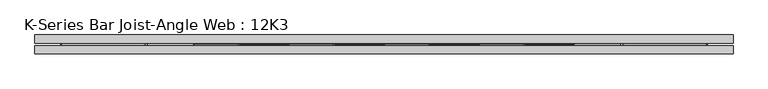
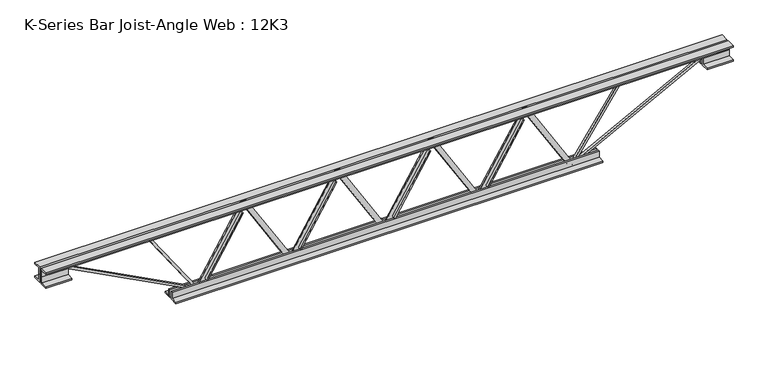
"""IFC4 building model written with IfcOpenShell, lengths in millimetres: beam geometry, K-Series Bar Joist-Angle Web : 12K3."""

from ifc_helpers import new_model, si_unit, frame, origin, place, context, project, spatial, polyline, outline, extrude, faceted_brep, source, transform, mapped, element, save


def k_series_bar_joist_angle_web_12k3_99e26d15(model_context):
    return source(origin(), model_context, "Body", "SolidModel", [
        extrude(outline(polyline([(-4.7625, 4.7625), (-4.7625, 0.0), (-17.4625, 0.0), (-17.4625, 4.7625), (-4.7625, 4.7625)])), frame((332.5611395, 0.0, -114.3), z_axis=(-0.5199277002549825, 0.0, 0.8542102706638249), x_axis=(0.0, -1.0, 0.0)), (0.0, 0.0, 1.0), 267.6156069),
        extrude(outline(polyline([(-149.225, 365.521875), (-130.175, 365.521875), (-130.175, 364.5249933), (149.225, 194.4640558), (149.225, 176.4109375), (130.175, 176.4109375), (130.175, 183.7578192), (-149.225, 353.8187567), (-149.225, 365.521875)])), frame((0.0, 0.0, 0.0), z_axis=(0.0, 1.0, 0.0), x_axis=(0.0, 0.0, 1.0)), (0.0, 0.0, 1.0), 4.7625),
        faceted_brep([(0.0, 0.0, -130.175), (0.0, 0.0, -149.225), (0.0, -4.7625, -149.225), (0.0, -4.7625, -130.175), (0.9968817, 0.0, -130.175), (171.0578192, 0.0, 149.225), (189.1109375, 0.0, 149.225), (189.1109375, 0.0, 130.175), (181.7640558, 0.0, 130.175), (11.7031183, 0.0, -149.225), (11.7031183, -4.7625, -149.225), (32.9607355, -4.7625, -114.3), (28.8925591, -4.7625, -111.8238443), (168.0333261, -4.7625, 116.7761557), (172.1015026, -4.7625, 114.3), (181.7640558, -4.7625, 130.175), (189.1109375, -4.7625, 130.175), (189.1109375, -4.7625, 149.225), (171.0578192, -4.7625, 149.225), (0.9968817, -4.7625, -130.175), (172.1015026, -17.4625, 114.3), (32.9607355, -17.4625, -114.3), (28.8925591, -17.4625, -111.8238443), (168.0333261, -17.4625, 116.7761557)], [[[0, 1, 2, 3]], [[1, 0, 4, 5, 6, 7, 8, 9]], [[2, 1, 9, 10]], [[3, 2, 10, 11, 12, 13, 14, 15, 16, 17, 18, 19]], [[0, 3, 19, 4]], [[9, 8, 15, 14, 20, 21, 11, 10]], [[5, 4, 19, 18]], [[7, 6, 17, 16]], [[8, 7, 16, 15]], [[6, 5, 18, 17]], [[21, 22, 12, 11]], [[20, 14, 13, 23]], [[22, 21, 20, 23]], [[12, 22, 23, 13]]]),
        extrude(outline(polyline([(-4.7625, 4.7625), (-4.7625, 0.0), (-17.4625, 0.0), (-17.4625, 4.7625), (-4.7625, 4.7625)])), frame((-32.9607355, 0.0, -114.3), z_axis=(-0.5199277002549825, 0.0, 0.8542102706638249), x_axis=(0.0, -1.0, 0.0)), (0.0, 0.0, 1.0), 267.6156069),
        extrude(outline(polyline([(-149.225, 0.0), (-130.175, 0.0), (-130.175, -0.9968817), (149.225, -171.0578192), (149.225, -189.1109375), (130.175, -189.1109375), (130.175, -181.7640558), (-149.225, -11.7031183), (-149.225, 0.0)])), frame((0.0, 0.0, 0.0), z_axis=(0.0, 1.0, 0.0), x_axis=(0.0, 0.0, 1.0)), (0.0, 0.0, 1.0), 4.7625),
        faceted_brep([(-365.521875, 0.0, -130.175), (-365.521875, 0.0, -149.225), (-365.521875, -4.7625, -149.225), (-365.521875, -4.7625, -130.175), (-364.5249933, 0.0, -130.175), (-194.4640558, 0.0, 149.225), (-176.4109375, 0.0, 149.225), (-176.4109375, 0.0, 130.175), (-183.7578192, 0.0, 130.175), (-353.8187567, 0.0, -149.225), (-353.8187567, -4.7625, -149.225), (-332.5611395, -4.7625, -114.3), (-336.6293159, -4.7625, -111.8238443), (-197.4885489, -4.7625, 116.7761557), (-193.4203724, -4.7625, 114.3), (-183.7578192, -4.7625, 130.175), (-176.4109375, -4.7625, 130.175), (-176.4109375, -4.7625, 149.225), (-194.4640558, -4.7625, 149.225), (-364.5249933, -4.7625, -130.175), (-193.4203724, -17.4625, 114.3), (-332.5611395, -17.4625, -114.3), (-336.6293159, -17.4625, -111.8238443), (-197.4885489, -17.4625, 116.7761557)], [[[0, 1, 2, 3]], [[1, 0, 4, 5, 6, 7, 8, 9]], [[2, 1, 9, 10]], [[3, 2, 10, 11, 12, 13, 14, 15, 16, 17, 18, 19]], [[0, 3, 19, 4]], [[9, 8, 15, 14, 20, 21, 11, 10]], [[5, 4, 19, 18]], [[7, 6, 17, 16]], [[8, 7, 16, 15]], [[6, 5, 18, 17]], [[21, 22, 12, 11]], [[20, 14, 13, 23]], [[22, 21, 20, 23]], [[12, 22, 23, 13]]]),
        extrude(outline(polyline([(-4.7625, 4.7625), (-4.7625, 0.0), (-17.4625, 0.0), (-17.4625, 4.7625), (-4.7625, 4.7625)])), frame((698.0830145, 0.0, -114.3), z_axis=(-0.5199277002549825, 0.0, 0.8542102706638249), x_axis=(0.0, -1.0, 0.0)), (0.0, 0.0, 1.0), 267.6156069),
        extrude(outline(polyline([(-149.225, 731.04375), (-130.175, 731.04375), (-130.175, 730.0468683), (149.225, 559.9859308), (149.225, 541.9328125), (130.175, 541.9328125), (130.175, 549.2796942), (-149.225, 719.3406317), (-149.225, 731.04375)])), frame((0.0, 0.0, 0.0), z_axis=(0.0, 1.0, 0.0), x_axis=(0.0, 0.0, 1.0)), (0.0, 0.0, 1.0), 4.7625),
        faceted_brep([(365.521875, 0.0, -130.175), (365.521875, 0.0, -149.225), (365.521875, -4.7625, -149.225), (365.521875, -4.7625, -130.175), (366.5187567, 0.0, -130.175), (536.5796942, 0.0, 149.225), (554.6328125, 0.0, 149.225), (554.6328125, 0.0, 130.175), (547.2859308, 0.0, 130.175), (377.2249933, 0.0, -149.225), (377.2249933, -4.7625, -149.225), (398.4826105, -4.7625, -114.3), (394.4144341, -4.7625, -111.8238443), (533.5552011, -4.7625, 116.7761557), (537.6233776, -4.7625, 114.3), (547.2859308, -4.7625, 130.175), (554.6328125, -4.7625, 130.175), (554.6328125, -4.7625, 149.225), (536.5796942, -4.7625, 149.225), (366.5187567, -4.7625, -130.175), (537.6233776, -17.4625, 114.3), (398.4826105, -17.4625, -114.3), (394.4144341, -17.4625, -111.8238443), (533.5552011, -17.4625, 116.7761557)], [[[0, 1, 2, 3]], [[1, 0, 4, 5, 6, 7, 8, 9]], [[2, 1, 9, 10]], [[3, 2, 10, 11, 12, 13, 14, 15, 16, 17, 18, 19]], [[0, 3, 19, 4]], [[9, 8, 15, 14, 20, 21, 11, 10]], [[5, 4, 19, 18]], [[7, 6, 17, 16]], [[8, 7, 16, 15]], [[6, 5, 18, 17]], [[21, 22, 12, 11]], [[20, 14, 13, 23]], [[22, 21, 20, 23]], [[12, 22, 23, 13]]]),
        extrude(outline(polyline([(-4.7625, 4.7625), (-4.7625, 0.0), (-17.4625, 0.0), (-17.4625, 4.7625), (-4.7625, 4.7625)])), frame((-398.4826105, 0.0, -114.3), z_axis=(-0.5199277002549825, 0.0, 0.8542102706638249), x_axis=(0.0, -1.0, 0.0)), (0.0, 0.0, 1.0), 267.6156069),
        extrude(outline(polyline([(-149.225, -365.521875), (-130.175, -365.521875), (-130.175, -366.5187567), (149.225, -536.5796942), (149.225, -554.6328125), (130.175, -554.6328125), (130.175, -547.2859308), (-149.225, -377.2249933), (-149.225, -365.521875)])), frame((0.0, 0.0, 0.0), z_axis=(0.0, 1.0, 0.0), x_axis=(0.0, 0.0, 1.0)), (0.0, 0.0, 1.0), 4.7625),
        faceted_brep([(-731.04375, 0.0, -130.175), (-731.04375, 0.0, -149.225), (-731.04375, -4.7625, -149.225), (-731.04375, -4.7625, -130.175), (-730.0468683, 0.0, -130.175), (-559.9859308, 0.0, 149.225), (-541.9328125, 0.0, 149.225), (-541.9328125, 0.0, 130.175), (-549.2796942, 0.0, 130.175), (-719.3406317, 0.0, -149.225), (-719.3406317, -4.7625, -149.225), (-698.0830145, -4.7625, -114.3), (-702.1511909, -4.7625, -111.8238443), (-563.0104239, -4.7625, 116.7761557), (-558.9422474, -4.7625, 114.3), (-549.2796942, -4.7625, 130.175), (-541.9328125, -4.7625, 130.175), (-541.9328125, -4.7625, 149.225), (-559.9859308, -4.7625, 149.225), (-730.0468683, -4.7625, -130.175), (-558.9422474, -17.4625, 114.3), (-698.0830145, -17.4625, -114.3), (-702.1511909, -17.4625, -111.8238443), (-563.0104239, -17.4625, 116.7761557)], [[[0, 1, 2, 3]], [[1, 0, 4, 5, 6, 7, 8, 9]], [[2, 1, 9, 10]], [[3, 2, 10, 11, 12, 13, 14, 15, 16, 17, 18, 19]], [[0, 3, 19, 4]], [[9, 8, 15, 14, 20, 21, 11, 10]], [[5, 4, 19, 18]], [[7, 6, 17, 16]], [[8, 7, 16, 15]], [[6, 5, 18, 17]], [[21, 22, 12, 11]], [[20, 14, 13, 23]], [[22, 21, 20, 23]], [[12, 22, 23, 13]]]),
        extrude(outline(polyline([(4.7625, 152.4), (36.5125, 152.4), (36.5125, 146.05), (11.1125, 146.05), (11.1125, 120.65), (4.7625, 120.65), (4.7625, 152.4)])), frame((-1340.64375, 0.0, 0.0), z_axis=(1.0, 0.0, 0.0), x_axis=(0.0, 1.0, 0.0)), (0.0, 0.0, 1.0), 2681.2875),
        extrude(outline(polyline([(-4.7625, 152.4), (-4.7625, 120.65), (-11.1125, 120.65), (-11.1125, 146.05), (-36.5125, 146.05), (-36.5125, 152.4), (-4.7625, 152.4)])), frame((-1340.64375, 0.0, 0.0), z_axis=(1.0, 0.0, 0.0), x_axis=(0.0, 1.0, 0.0)), (0.0, 0.0, 1.0), 2681.2875),
        extrude(outline(polyline([(-4.7625, 88.9), (-36.5125, 88.9), (-36.5125, 95.25), (-11.1125, 95.25), (-11.1125, 120.65), (-4.7625, 120.65), (-4.7625, 88.9)])), frame((-1340.64375, 0.0, 0.0), z_axis=(1.0, 0.0, 0.0), x_axis=(0.0, 1.0, 0.0)), (0.0, 0.0, 1.0), 101.6),
        extrude(outline(polyline([(36.5125, 88.9), (4.7625, 88.9), (4.7625, 120.65), (11.1125, 120.65), (11.1125, 95.25), (36.5125, 95.25), (36.5125, 88.9)])), frame((-1340.64375, 0.0, 0.0), z_axis=(1.0, 0.0, 0.0), x_axis=(0.0, 1.0, 0.0)), (0.0, 0.0, 1.0), 101.6),
        extrude(outline(polyline([(4.7625, 88.9), (4.7625, 120.65), (11.1125, 120.65), (11.1125, 95.25), (36.5125, 95.25), (36.5125, 88.9), (4.7625, 88.9)])), frame((1239.04375, 0.0, 0.0), z_axis=(1.0, 0.0, 0.0), x_axis=(0.0, 1.0, 0.0)), (0.0, 0.0, 1.0), 101.6),
        extrude(outline(polyline([(-4.7625, 88.9), (-36.5125, 88.9), (-36.5125, 95.25), (-11.1125, 95.25), (-11.1125, 120.65), (-4.7625, 120.65), (-4.7625, 88.9)])), frame((1239.04375, 0.0, 0.0), z_axis=(1.0, 0.0, 0.0), x_axis=(0.0, 1.0, 0.0)), (0.0, 0.0, 1.0), 101.6),
        extrude(outline(polyline([(4.7625, -152.4), (4.7625, -120.65), (11.1125, -120.65), (11.1125, -146.05), (36.5125, -146.05), (36.5125, -152.4), (4.7625, -152.4)])), frame((-832.64375, 0.0, 0.0), z_axis=(1.0, 0.0, 0.0), x_axis=(0.0, 1.0, 0.0)), (0.0, 0.0, 1.0), 1665.2875),
        extrude(outline(polyline([(-4.7625, -152.4), (-36.5125, -152.4), (-36.5125, -146.05), (-11.1125, -146.05), (-11.1125, -120.65), (-4.7625, -120.65), (-4.7625, -152.4)])), frame((-832.64375, 0.0, 0.0), z_axis=(1.0, 0.0, 0.0), x_axis=(0.0, 1.0, 0.0)), (0.0, 0.0, 1.0), 1665.2875),
        extrude(outline(polyline([(4.7625, 4.7625), (4.7625, -4.7625), (-4.7625, -4.7625), (-4.7625, 4.7625), (4.7625, 4.7625)])), frame((731.04375, 0.0, -146.05), z_axis=(0.5652778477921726, 0.0, 0.8249005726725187), x_axis=(0.0, -1.0, 0.0)), (0.0, 0.0, 1.0), 323.3116921),
        extrude(outline(polyline([(4.7625, 4.7625), (4.7625, -4.7625), (-4.7625, -4.7625), (-4.7625, 4.7625), (4.7625, 4.7625)])), frame((-731.04375, 0.0, -146.05), z_axis=(-0.5652778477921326, 0.0, 0.8249005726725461), x_axis=(0.0, -1.0, 0.0)), (0.0, 0.0, 1.0), 323.3116921),
        extrude(outline(polyline([(0.0, -9.525), (0.0, 0.0), (573.7533355, 0.0), (573.7533355, -9.525), (0.0, -9.525)])), frame((1241.2575214, -4.7625, 116.4332925), z_axis=(-0.46483389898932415, 0.0, 0.8853979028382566), x_axis=(-0.8853979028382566, 0.0, -0.46483389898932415)), (0.0, 0.0, 1.0), 9.525),
        extrude(outline(polyline([(0.0, -9.525), (0.0, 0.0), (573.7533355, 0.0), (573.7533355, -9.525), (0.0, -9.525)])), frame((-1241.2575214, 4.7625, 116.4332925), z_axis=(0.46483389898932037, 0.0, 0.8853979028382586), x_axis=(0.8853979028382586, 0.0, -0.46483389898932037)), (0.0, 0.0, 1.0), 9.525),
    ])


if __name__ == "__main__":
    model = new_model("IFC4")
    model_context = context("Model", 3, world=origin())
    ifc_project = project(units=[si_unit("LENGTHUNIT", "METRE", prefix="MILLI")], contexts=[model_context])
    site = spatial("IfcSite", under=ifc_project)
    building = spatial("IfcBuilding", under=site)
    placement = place(None, origin())
    k_series_bar_joist_angle_web_12k3_shape = k_series_bar_joist_angle_web_12k3_99e26d15(model_context)
    element("IfcBeam", 1, ObjectType="K-Series Bar Joist-Angle Web : 12K3", at=placement, inside=building, context=model_context, shape_type="MappedRepresentation", body=[
        mapped(k_series_bar_joist_angle_web_12k3_shape, transform((0.0, 0.0, 0.0), x_axis=(1.0, 0.0, 0.0), y_axis=(0.0, 1.0, 0.0), z_axis=(0.0, 0.0, 1.0))),
    ])
    save(model, "model.ifc")
